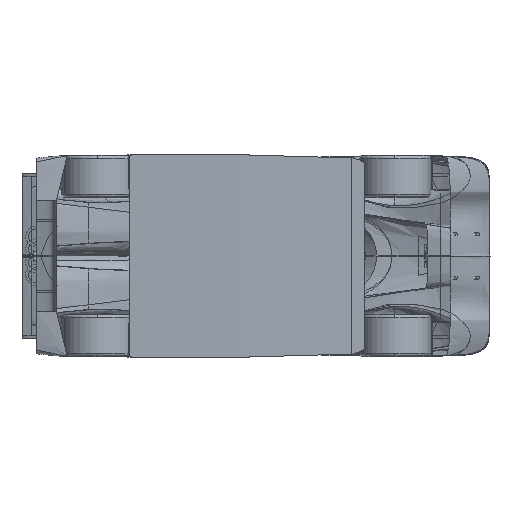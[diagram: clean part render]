
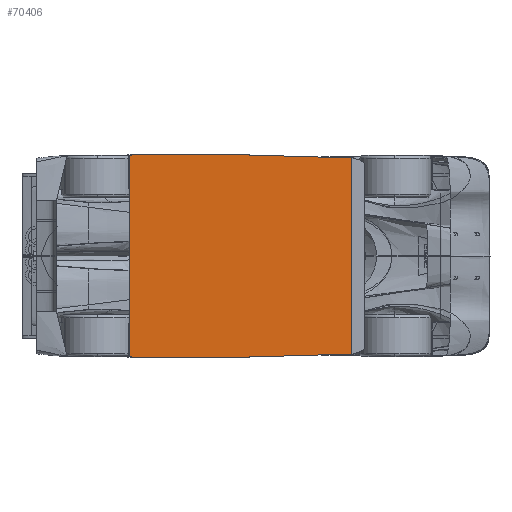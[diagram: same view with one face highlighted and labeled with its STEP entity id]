
A CAD part, front view. The second image highlights one B-rep face of the part: STEP entity #70406.
In plain terms, the highlighted free-form (B-spline) face has degree [3, 1] with [8, 2] control points.
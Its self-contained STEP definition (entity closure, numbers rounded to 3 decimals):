
#3641 = ORIENTED_EDGE ( 'NONE', *, *, #112729, .T. ) ;
#7060 = CARTESIAN_POINT ( 'NONE',  ( 801.364, 58.024, -754.309 ) ) ;
#11161 = CARTESIAN_POINT ( 'NONE',  ( 801.364, 58.024, -754.309 ) ) ;
#11896 = CARTESIAN_POINT ( 'NONE',  ( 2464.177, 41.791, 731.929 ) ) ;
#23159 = EDGE_CURVE ( 'NONE', #105013, #38180, #111940, .T. ) ;
#27900 = CARTESIAN_POINT ( 'NONE',  ( 2464.177, 41.791, 731.929 ) ) ;
#28069 = CARTESIAN_POINT ( 'NONE',  ( 939.779, 54.423, -754.642 ) ) ;
#28556 = CARTESIAN_POINT ( 'NONE',  ( 2464.177, 41.791, 0. ) ) ;
#37577 = VERTEX_POINT ( 'NONE', #27900 ) ;
#38180 = VERTEX_POINT ( 'NONE', #53315 ) ;
#41350 = CARTESIAN_POINT ( 'NONE',  ( 801.364, 58.024, 754.309 ) ) ;
#44976 = CARTESIAN_POINT ( 'NONE',  ( 1106.38, 50.276, -755.527 ) ) ;
#45457 = DIRECTION ( 'NONE',  ( 0., 0., -1. ) ) ;
#53315 = CARTESIAN_POINT ( 'NONE',  ( 801.364, 58.024, -754.309 ) ) ;
#61868 = CARTESIAN_POINT ( 'NONE',  ( 1418.866, 43.402, -756.581 ) ) ;
#64364 = CARTESIAN_POINT ( 'NONE',  ( 1418.866, 43.402, 756.581 ) ) ;
#66277 = LINE ( 'NONE', #28556, #189982 ) ;
#69141 = ORIENTED_EDGE ( 'NONE', *, *, #202351, .T. ) ;
#69607 = VECTOR ( 'NONE', #168522, 1000. ) ;
#70406 = ADVANCED_FACE ( 'NONE', ( #177173 ), #94449, .T. ) ;
#73901 = CARTESIAN_POINT ( 'NONE',  ( 1975.4, 40.159, -746.831 ) ) ;
#78737 = CARTESIAN_POINT ( 'NONE',  ( 1574.908, 38.827, -759.088 ) ) ;
#81245 = CARTESIAN_POINT ( 'NONE',  ( 1975.4, 40.159, 746.831 ) ) ;
#88890 = CARTESIAN_POINT ( 'NONE',  ( 801.364, 58.024, 0. ) ) ;
#90787 = CARTESIAN_POINT ( 'NONE',  ( 1418.866, 43.402, -756.581 ) ) ;
#94449 = B_SPLINE_SURFACE_WITH_KNOTS ( 'NONE', 3, 1, ( 
 ( #41350, #11161 ),
 ( #128841, #28069 ),
 ( #145786, #44976 ),
 ( #162664, #61868 ),
 ( #179560, #78737 ),
 ( #196449, #95640 ),
 ( #213394, #112616 ),
 ( #11896, #129577 ) ),
 .UNSPECIFIED., .F., .F., .F.,
 ( 4, 2, 2, 4 ),
 ( 2, 2 ),
 ( 0., 0.28, 0.561, 1. ),
 ( 0., 1. ),
 .UNSPECIFIED. ) ;
#95640 = CARTESIAN_POINT ( 'NONE',  ( 1975.4, 40.159, -746.831 ) ) ;
#98168 = CARTESIAN_POINT ( 'NONE',  ( 2464.177, 41.791, 731.929 ) ) ;
#105013 = VERTEX_POINT ( 'NONE', #136336 ) ;
#107763 = CARTESIAN_POINT ( 'NONE',  ( 939.779, 54.423, -754.642 ) ) ;
#111940 = B_SPLINE_CURVE_WITH_KNOTS ( 'NONE', 3,
 ( #157865, #174730, #73901, #191631, #90787, #208566, #107763, #7060 ),
 .UNSPECIFIED., .F., .F.,
 ( 4, 2, 2, 4 ),
 ( 0., 0.439, 0.72, 1. ),
 .UNSPECIFIED. ) ;
#112616 = CARTESIAN_POINT ( 'NONE',  ( 2219.789, 40.976, -739.388 ) ) ;
#112729 = EDGE_CURVE ( 'NONE', #136491, #37577, #127030, .T. ) ;
#114418 = CARTESIAN_POINT ( 'NONE',  ( 939.779, 54.423, 754.642 ) ) ;
#127030 = B_SPLINE_CURVE_WITH_KNOTS ( 'NONE', 3,
 ( #146126, #114418, #165187, #64364, #182076, #81245, #199001, #98168 ),
 .UNSPECIFIED., .F., .F.,
 ( 4, 2, 2, 4 ),
 ( 0., 0.28, 0.561, 1. ),
 .UNSPECIFIED. ) ;
#128841 = CARTESIAN_POINT ( 'NONE',  ( 939.779, 54.423, 754.642 ) ) ;
#129577 = CARTESIAN_POINT ( 'NONE',  ( 2464.177, 41.791, -731.929 ) ) ;
#135339 = EDGE_LOOP ( 'NONE', ( #3641, #69141, #198648, #191971 ) ) ;
#136336 = CARTESIAN_POINT ( 'NONE',  ( 2464.177, 41.791, -731.929 ) ) ;
#136491 = VERTEX_POINT ( 'NONE', #187133 ) ;
#145786 = CARTESIAN_POINT ( 'NONE',  ( 1106.38, 50.276, 755.527 ) ) ;
#146126 = CARTESIAN_POINT ( 'NONE',  ( 801.364, 58.024, 754.309 ) ) ;
#157865 = CARTESIAN_POINT ( 'NONE',  ( 2464.177, 41.791, -731.929 ) ) ;
#162664 = CARTESIAN_POINT ( 'NONE',  ( 1418.866, 43.402, 756.581 ) ) ;
#165187 = CARTESIAN_POINT ( 'NONE',  ( 1106.38, 50.276, 755.527 ) ) ;
#168522 = DIRECTION ( 'NONE',  ( 0., 0., 1. ) ) ;
#174730 = CARTESIAN_POINT ( 'NONE',  ( 2219.789, 40.976, -739.388 ) ) ;
#177173 = FACE_OUTER_BOUND ( 'NONE', #135339, .T. ) ;
#179560 = CARTESIAN_POINT ( 'NONE',  ( 1574.908, 38.827, 759.088 ) ) ;
#182076 = CARTESIAN_POINT ( 'NONE',  ( 1574.908, 38.827, 759.088 ) ) ;
#187133 = CARTESIAN_POINT ( 'NONE',  ( 801.364, 58.024, 754.309 ) ) ;
#188043 = LINE ( 'NONE', #88890, #69607 ) ;
#188504 = EDGE_CURVE ( 'NONE', #38180, #136491, #188043, .T. ) ;
#189982 = VECTOR ( 'NONE', #45457, 1000. ) ;
#191631 = CARTESIAN_POINT ( 'NONE',  ( 1574.908, 38.827, -759.088 ) ) ;
#191971 = ORIENTED_EDGE ( 'NONE', *, *, #188504, .T. ) ;
#196449 = CARTESIAN_POINT ( 'NONE',  ( 1975.4, 40.159, 746.831 ) ) ;
#198648 = ORIENTED_EDGE ( 'NONE', *, *, #23159, .T. ) ;
#199001 = CARTESIAN_POINT ( 'NONE',  ( 2219.789, 40.976, 739.388 ) ) ;
#202351 = EDGE_CURVE ( 'NONE', #37577, #105013, #66277, .T. ) ;
#208566 = CARTESIAN_POINT ( 'NONE',  ( 1106.38, 50.276, -755.527 ) ) ;
#213394 = CARTESIAN_POINT ( 'NONE',  ( 2219.789, 40.976, 739.388 ) ) ;
